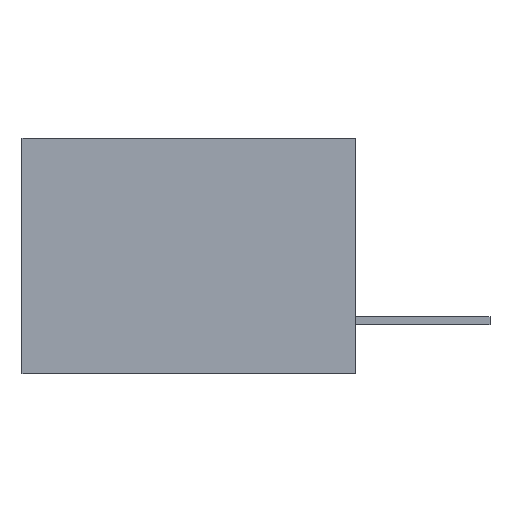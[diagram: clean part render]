
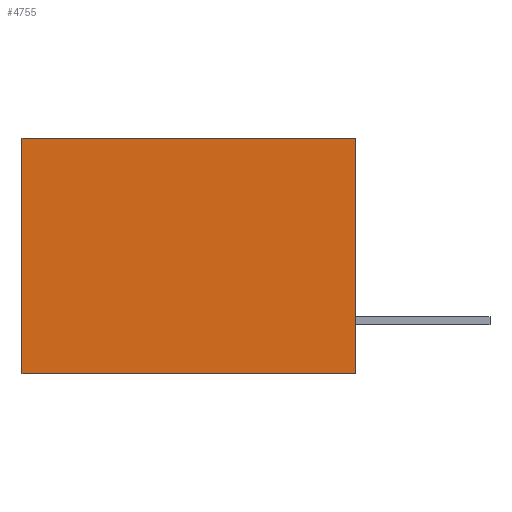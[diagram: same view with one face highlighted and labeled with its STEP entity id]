
A CAD part, left-side view. The second image highlights one B-rep face of the part: STEP entity #4755.
In plain terms, the highlighted planar face has unit normal (-1, 0, 0).
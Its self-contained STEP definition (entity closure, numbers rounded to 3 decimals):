
#4660 = VERTEX_POINT ( 'NONE', #6040 ) ;
#4735 = EDGE_CURVE ( 'NONE', #4660, #4736, #6548, .T. ) ;
#4736 = VERTEX_POINT ( 'NONE', #6544 ) ;
#4739 = ORIENTED_EDGE ( 'NONE', *, *, #4752, .T. ) ;
#4750 = VERTEX_POINT ( 'NONE', #6467 ) ;
#4752 = EDGE_CURVE ( 'NONE', #4660, #4750, #6466, .T. ) ;
#4755 = ADVANCED_FACE ( 'NONE', ( #6462 ), #6461, .F. ) ;
#4756 = EDGE_LOOP ( 'NONE', ( #4757, #4769, #4771, #4739 ) ) ;
#4757 = ORIENTED_EDGE ( 'NONE', *, *, #4758, .T. ) ;
#4758 = EDGE_CURVE ( 'NONE', #4750, #4759, #6507, .T. ) ;
#4759 = VERTEX_POINT ( 'NONE', #6503 ) ;
#4769 = ORIENTED_EDGE ( 'NONE', *, *, #4770, .F. ) ;
#4770 = EDGE_CURVE ( 'NONE', #4736, #4759, #6599, .T. ) ;
#4771 = ORIENTED_EDGE ( 'NONE', *, *, #4735, .F. ) ;
#6040 = CARTESIAN_POINT ( 'NONE',  ( -9.8, 9.7, 3.6 ) ) ;
#6457 = DIRECTION ( 'NONE',  ( 0., 0., -1. ) ) ;
#6458 = DIRECTION ( 'NONE',  ( 1., 0., 0. ) ) ;
#6459 = AXIS2_PLACEMENT_3D ( 'NONE', #6460, #6458, #6457 ) ;
#6460 = CARTESIAN_POINT ( 'NONE',  ( -9.8, -0.5, 3.6 ) ) ;
#6461 = PLANE ( 'NONE',  #6459 ) ;
#6462 = FACE_OUTER_BOUND ( 'NONE', #4756, .T. ) ;
#6463 = DIRECTION ( 'NONE',  ( 0., 0., -1. ) ) ;
#6464 = VECTOR ( 'NONE', #6463, 1000. ) ;
#6465 = CARTESIAN_POINT ( 'NONE',  ( -9.8, 9.7, 3.6 ) ) ;
#6466 = LINE ( 'NONE', #6465, #6464 ) ;
#6467 = CARTESIAN_POINT ( 'NONE',  ( -9.8, 9.7, -3.6 ) ) ;
#6503 = CARTESIAN_POINT ( 'NONE',  ( -9.8, -0.5, -3.6 ) ) ;
#6504 = DIRECTION ( 'NONE',  ( 0., -1., 0. ) ) ;
#6505 = VECTOR ( 'NONE', #6504, 1000. ) ;
#6506 = CARTESIAN_POINT ( 'NONE',  ( -9.8, -0.5, -3.6 ) ) ;
#6507 = LINE ( 'NONE', #6506, #6505 ) ;
#6544 = CARTESIAN_POINT ( 'NONE',  ( -9.8, -0.5, 3.6 ) ) ;
#6545 = DIRECTION ( 'NONE',  ( 0., -1., 0. ) ) ;
#6546 = VECTOR ( 'NONE', #6545, 1000. ) ;
#6547 = CARTESIAN_POINT ( 'NONE',  ( -9.8, -0.5, 3.6 ) ) ;
#6548 = LINE ( 'NONE', #6547, #6546 ) ;
#6596 = DIRECTION ( 'NONE',  ( 0., 0., -1. ) ) ;
#6597 = VECTOR ( 'NONE', #6596, 1000. ) ;
#6598 = CARTESIAN_POINT ( 'NONE',  ( -9.8, -0.5, 3.6 ) ) ;
#6599 = LINE ( 'NONE', #6598, #6597 ) ;
